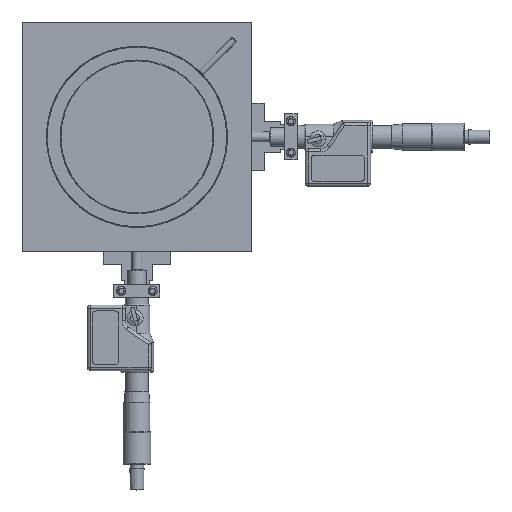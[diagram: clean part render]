
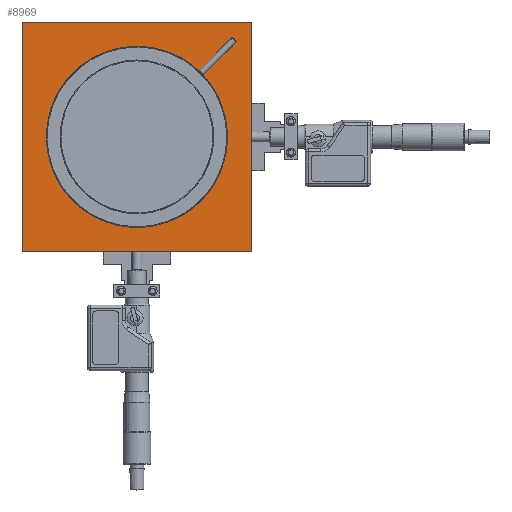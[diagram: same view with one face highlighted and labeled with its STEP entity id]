
A CAD part, top view. The second image highlights one B-rep face of the part: STEP entity #8969.
In plain terms, the highlighted planar face has unit normal (0, 0, 1).
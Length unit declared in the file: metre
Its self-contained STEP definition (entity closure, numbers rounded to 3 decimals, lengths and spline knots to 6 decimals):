
#8969=ADVANCED_FACE('1511:60266',(#18697,#18698),#18699,.T.);
#18697=FACE_BOUND('',#28603,.T.);
#18698=FACE_OUTER_BOUND('',#28604,.T.);
#18699=PLANE('',#28605);
#28603=EDGE_LOOP('',(#54503));
#28604=EDGE_LOOP('',(#54504,#54505,#54506,#54507));
#28605=AXIS2_PLACEMENT_3D('',#54508,#54509,#54510);
#54503=ORIENTED_EDGE('',*,*,#65559,.F.);
#54504=ORIENTED_EDGE('',*,*,#65607,.F.);
#54505=ORIENTED_EDGE('',*,*,#65608,.F.);
#54506=ORIENTED_EDGE('',*,*,#65604,.F.);
#54507=ORIENTED_EDGE('',*,*,#65609,.F.);
#54508=CARTESIAN_POINT('',(0.069,0.,0.0355));
#54509=DIRECTION('',(0.0,0.0,1.0));
#54510=DIRECTION('',(1.0,0.,0.0));
#65559=EDGE_CURVE('1511:79763',#80437,#80437,#80438,.T.);
#65604=EDGE_CURVE('1511:79766',#80502,#80504,#80505,.T.);
#65607=EDGE_CURVE('1511:79886',#80508,#80509,#80510,.T.);
#65608=EDGE_CURVE('1511:79769',#80504,#80508,#80511,.T.);
#65609=EDGE_CURVE('1511:79880',#80509,#80502,#80512,.T.);
#80437=VERTEX_POINT('',#101338);
#80438=CIRCLE('',#101339,0.0542);
#80502=VERTEX_POINT('',#101432);
#80504=VERTEX_POINT('',#101435);
#80505=LINE('',#101436,#101437);
#80508=VERTEX_POINT('',#101441);
#80509=VERTEX_POINT('',#101442);
#80510=LINE('',#101443,#101444);
#80511=LINE('',#101445,#101446);
#80512=LINE('',#101447,#101448);
#101338=CARTESIAN_POINT('',(-0.0542,0.,0.0355));
#101339=AXIS2_PLACEMENT_3D('',#111504,#111505,#111506);
#101432=CARTESIAN_POINT('',(-0.0748,0.0748,0.0355));
#101435=CARTESIAN_POINT('',(0.0748,0.0748,0.0355));
#101436=CARTESIAN_POINT('',(0.0345,0.0748,0.0355));
#101437=VECTOR('',#111546,1.0);
#101441=CARTESIAN_POINT('',(0.0748,-0.0748,0.0355));
#101442=CARTESIAN_POINT('',(-0.0748,-0.0748,0.0355));
#101443=CARTESIAN_POINT('',(0.0345,-0.0748,0.0355));
#101444=VECTOR('',#111548,1.0);
#101445=CARTESIAN_POINT('',(0.0748,0.,0.0355));
#101446=VECTOR('',#111549,1.0);
#101447=CARTESIAN_POINT('',(-0.0748,0.,0.0355));
#101448=VECTOR('',#111550,1.0);
#111504=CARTESIAN_POINT('',(0.0,0.,0.0355));
#111505=DIRECTION('',(0.0,0.0,1.0));
#111506=DIRECTION('',(-1.0,0.,0.0));
#111546=DIRECTION('',(1.0,0.0,0.0));
#111548=DIRECTION('',(-1.0,0.0,0.0));
#111549=DIRECTION('',(0.0,-1.0,0.0));
#111550=DIRECTION('',(0.0,1.0,0.0));
